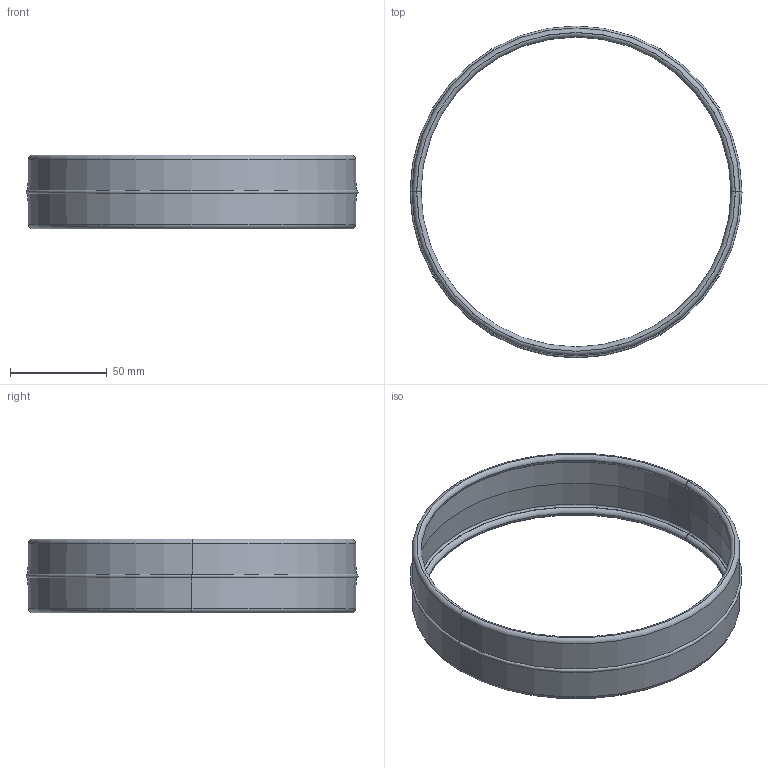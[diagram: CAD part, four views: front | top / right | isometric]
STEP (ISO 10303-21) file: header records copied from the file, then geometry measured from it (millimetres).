
FILE_DESCRIPTION (( 'STEP AP214' ), '1' );
FILE_NAME ('0638 Schutzring.STEP', '2025-03-26T12:12:17', ( '' ), ( '' ), 'SwSTEP 2.0', 'SolidWorks 2022', '' );
FILE_SCHEMA (( 'AUTOMOTIVE_DESIGN' ));
Length unit declared in the file: millimetre
Products named in the file (2): 0638 Schutzring; 10068438_000_160,6 x 160,6 x 38,2
Assembly tree (1 placements, depth 2):
  0638 Schutzring
    10068438_000_160,6 x 160,6 x 38,2
Bounding box: 172 x 172 x 38.2 mm (x, y, z)
Volume: 39980.4 mm3; surface area: 45704.9 mm2
Topology: 1 solids, 1 shells, 30 faces, 60 edges, 34 vertices
Faces by surface type: torus 18, cone 8, plane 4
Entity records: 862 total; most frequent: DIRECTION 180, CARTESIAN_POINT 128, ORIENTED_EDGE 120, AXIS2_PLACEMENT_3D 86, EDGE_CURVE 60, CIRCLE 52, EDGE_LOOP 34, VERTEX_POINT 34
